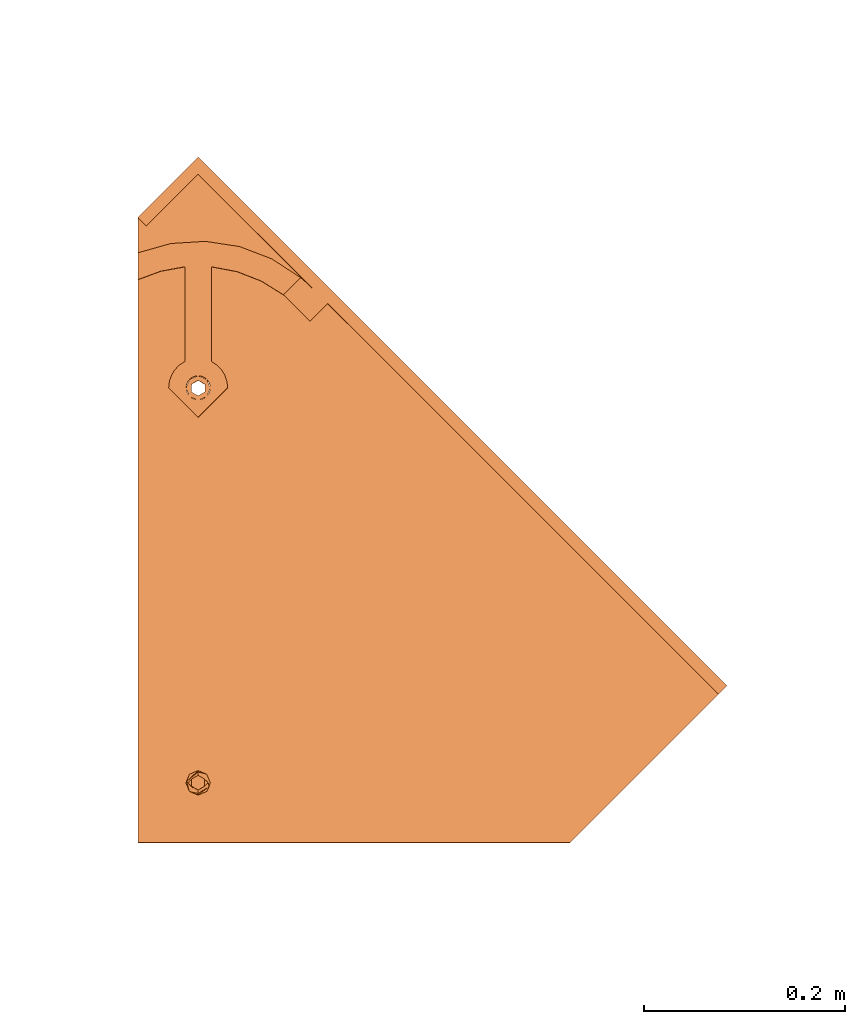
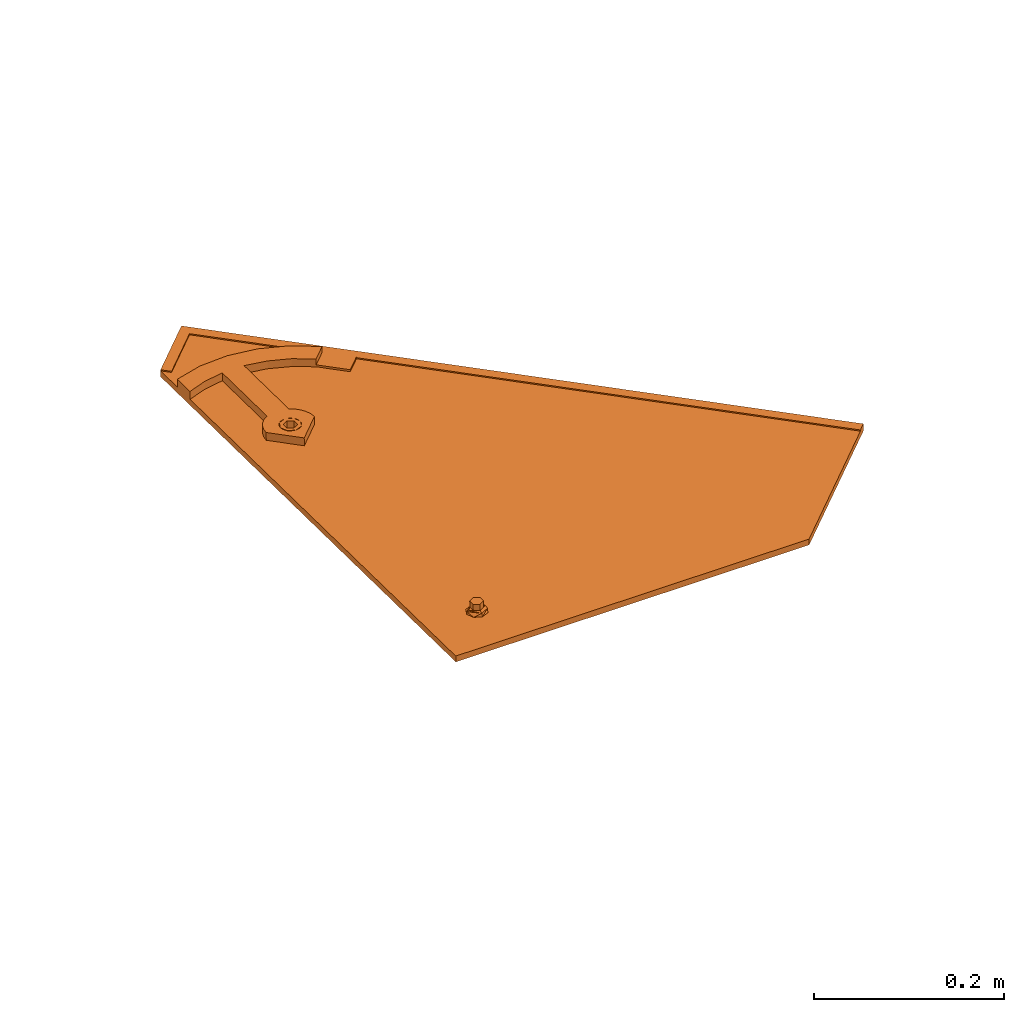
# One storey, part 150 of 151: 1 proxy.
"""IFC2X3 building model written with IfcOpenShell, lengths in millimetres."""

import ifcopenshell
import ifcopenshell.guid

model = None  # the IFC model being written
_history = None  # IfcOwnerHistory: only IFC2X3 demands one
_inside = {}  # id of a spatial element -> (the spatial element, [elements in it])
_under = {}  # id of a project, library or spatial element -> (it, [spatial elements below it])
_declared = {}  # id of a project -> (the project, [libraries it declares])
_typed = {}  # id of a type object -> (the type object, [elements of that type])
_made_of = {}  # id of a material, layer set ... -> (it, [elements and type objects made of it])


def new_model(schema):
    """Start an empty IFC model of exactly this schema.

    Asked for "IFC4X3", IfcOpenShell would pick the latest addendum, in which some entities
    have other attributes; the version numbers below select the first issue.
    IFC2X3 requires an IfcOwnerHistory on every rooted entity: one is made here for all.
    """
    global model, _history
    if schema == "IFC4X3":
        model = ifcopenshell.file(schema_version=(4, 3, 0, 0))
    else:
        model = ifcopenshell.file(schema=schema)
    _inside.clear()
    _under.clear()
    _declared.clear()
    _typed.clear()
    _made_of.clear()
    _history = None
    if model.schema == "IFC2X3":
        org = make("IfcOrganization", Name="unknown")
        user = make(
            "IfcPersonAndOrganization",
            ThePerson=make("IfcPerson", FamilyName="unknown"),
            TheOrganization=org,
        )
        app = make(
            "IfcApplication",
            ApplicationDeveloper=org,
            Version="unknown",
            ApplicationFullName="unknown",
            ApplicationIdentifier="unknown",
        )
        _history = make(
            "IfcOwnerHistory",
            OwningUser=user,
            OwningApplication=app,
            ChangeAction="ADDED",
            CreationDate=0,
        )
    return model


def make(cls, **values):
    """One entity of the class cls with the attributes given. An attribute that is None is left unset."""
    return model.create_entity(
        cls, **{name: value for name, value in values.items() if value is not None}
    )


def entity(cls, *values):
    """Any entity or typed value of the class cls, its attributes in the order of the schema. None: left unset."""
    e = model.create_entity(cls)
    for i, value in enumerate(values):
        if value is not None:
            e[i] = value
    return e


def rooted(cls, **values):
    """An entity with a GlobalId (a new one), such as an element, a storey or a relation."""
    return make(cls, GlobalId=ifcopenshell.guid.new(), OwnerHistory=_history, **values)


def si_unit(unit_type, name, prefix=None):
    """IfcSIUnit, for example si_unit("LENGTHUNIT", "METRE", prefix="MILLI")."""
    return make("IfcSIUnit", UnitType=unit_type, Prefix=prefix, Name=name)


def converted_unit(unit_type, name, factor, base, dimensions=None, offset=None):
    """IfcConversionBasedUnit, such as the inch: factor (a typed value) times the base unit."""
    return make(
        "IfcConversionBasedUnit"
        if offset is None
        else "IfcConversionBasedUnitWithOffset",
        ConversionOffset=offset,
        Dimensions=None
        if dimensions is None
        else entity("IfcDimensionalExponents", *dimensions),
        UnitType=unit_type,
        Name=name,
        ConversionFactor=make(
            "IfcMeasureWithUnit", ValueComponent=factor, UnitComponent=base
        ),
    )


def derived_unit(unit_type, elements):
    """IfcDerivedUnit: a product of units, each with its exponent."""
    return make(
        "IfcDerivedUnit",
        Elements=[
            make("IfcDerivedUnitElement", Unit=unit, Exponent=power)
            for unit, power in elements
        ],
        UnitType=unit_type,
    )


def assignment(units):
    """IfcUnitAssignment: the units of a project."""
    return None if units is None else make("IfcUnitAssignment", Units=units)


def point(xyz):
    """IfcCartesianPoint."""
    return None if xyz is None else make("IfcCartesianPoint", Coordinates=xyz)


def direction(xyz):
    """IfcDirection."""
    return None if xyz is None else make("IfcDirection", DirectionRatios=xyz)


def frame(location, z_axis=None, x_axis=None):
    """IfcAxis2Placement3D, a coordinate frame: its origin and axes. An axis left out is left unset."""
    return make(
        "IfcAxis2Placement3D",
        Location=point(location),
        Axis=direction(z_axis),
        RefDirection=direction(x_axis),
    )


def origin():
    """The frame at (0, 0, 0) with its axes left unset."""
    return frame((0.0, 0.0, 0.0))


def place(relative_to, where):
    """IfcLocalPlacement: puts the frame where relative to a parent placement (None: the world)."""
    return make(
        "IfcLocalPlacement", PlacementRelTo=relative_to, RelativePlacement=where
    )


def context(
    kind, dimensions, precision=None, world=None, true_north=None, identifier=None
):
    """IfcGeometricRepresentationContext, for example the 3D "Model" context."""
    return make(
        "IfcGeometricRepresentationContext",
        ContextIdentifier=identifier,
        ContextType=kind,
        CoordinateSpaceDimension=dimensions,
        Precision=precision,
        WorldCoordinateSystem=world,
        TrueNorth=true_north,
    )


def subcontext(parent, identifier, kind, view, scale=None):
    """IfcGeometricRepresentationSubContext, for example "Body" below "Model"."""
    return make(
        "IfcGeometricRepresentationSubContext",
        ContextIdentifier=identifier,
        ContextType=kind,
        ParentContext=parent,
        TargetScale=scale,
        TargetView=view,
    )


def project(units=None, contexts=None):
    """IfcProject with its units and contexts."""
    return rooted(
        "IfcProject",
        Name="project",
        RepresentationContexts=contexts,
        UnitsInContext=assignment(units),
    )


def spatial(cls, under=None, at=None, **own):
    """A site, building, storey or space (cls), placed at a placement, below another one or the project."""
    s = rooted(cls, ObjectPlacement=at, **own)
    if under is not None:
        _under.setdefault(under.id(), (under, []))[1].append(s)
    return s


def faces_of(points, faces, orient=None, outer=None):
    """IfcFace entities. A face is a list of loops; a loop is a list of indices into points, from 0.

    orient and outer hold one flag for each loop. By default every Orientation is true, the
    first loop of a face is its IfcFaceOuterBound and the others are IfcFaceBound.
    """
    made = []
    for i, loops in enumerate(faces):
        bounds = []
        for j, loop in enumerate(loops):
            is_outer = j == 0 if outer is None else outer[i][j]
            bounds.append(
                make(
                    "IfcFaceOuterBound" if is_outer else "IfcFaceBound",
                    Bound=make("IfcPolyLoop", Polygon=[points[k] for k in loop]),
                    Orientation=True if orient is None else orient[i][j],
                )
            )
        made.append(make("IfcFace", Bounds=bounds))
    return made


def faceted_brep(points, faces, orient=None, outer=None, voids=None):
    """IfcFacetedBrep: a solid bounded by flat faces; with voids (closed shells), ...WithVoids."""
    shared = [point(p) for p in points]
    hull = make("IfcClosedShell", CfsFaces=faces_of(shared, faces, orient, outer))
    if voids is None:
        return make("IfcFacetedBrep", Outer=hull)
    return make(
        "IfcFacetedBrepWithVoids",
        Outer=hull,
        Voids=[
            make(cls, CfsFaces=faces_of(shared, fs, o, b)) for cls, fs, o, b in voids
        ],
    )


def shape(context_of_items, identifier, shape_type, items):
    """IfcShapeRepresentation: the items that make up one representation, for example the "Body"."""
    return make(
        "IfcShapeRepresentation",
        ContextOfItems=context_of_items,
        RepresentationIdentifier=identifier,
        RepresentationType=shape_type,
        Items=items,
    )


def source(mapping_origin, context_of_items, identifier, shape_type, items):
    """IfcRepresentationMap: a shape defined once, which mapped items show again and again."""
    return make(
        "IfcRepresentationMap",
        MappingOrigin=mapping_origin,
        MappedRepresentation=shape(context_of_items, identifier, shape_type, items),
    )


def transform(
    local_origin,
    x_axis=None,
    y_axis=None,
    z_axis=None,
    scale=None,
    scale2=None,
    scale3=None,
    uniform=True,
):
    """IfcCartesianTransformationOperator3D, or its non-uniform kind. x_axis, y_axis, z_axis: its Axis1, 2, 3."""
    if uniform:
        return make(
            "IfcCartesianTransformationOperator3D",
            Axis1=direction(x_axis),
            Axis2=direction(y_axis),
            LocalOrigin=point(local_origin),
            Scale=scale,
            Axis3=direction(z_axis),
        )
    return make(
        "IfcCartesianTransformationOperator3DnonUniform",
        Axis1=direction(x_axis),
        Axis2=direction(y_axis),
        LocalOrigin=point(local_origin),
        Scale=scale,
        Axis3=direction(z_axis),
        Scale2=scale2,
        Scale3=scale3,
    )


def mapped(mapping_source, mapping_target):
    """IfcMappedItem: shows the shape of a source again, moved by a transform."""
    return make(
        "IfcMappedItem", MappingSource=mapping_source, MappingTarget=mapping_target
    )


def material(Name=None, Category=None):
    """IfcMaterial."""
    return make("IfcMaterial", Name=Name, Category=Category)


def material_list(materials):
    """IfcMaterialList."""
    return make("IfcMaterialList", Materials=materials)


def made_of(thing, what):
    """Note that an element or type object is made of a material, layer set ...; save() writes the relation."""
    if what is not None:
        _made_of.setdefault(what.id(), (what, []))[1].append(thing)
    return thing


def type_object(cls, material=None, **own):
    """A type object (cls), such as IfcWallType, which elements share."""
    return made_of(rooted(cls, **own), material)


def type_shapes(of_type, sources):
    """Give a type object the sources (RepresentationMaps) that its elements show as mapped items."""
    of_type.RepresentationMaps = sources


def element(
    cls,
    number,
    at=None,
    inside=None,
    cuts=None,
    type_object=None,
    material=None,
    context=None,
    identifier="Body",
    shape_type=None,
    held_by="IfcProductDefinitionShape",
    body=None,
    shapes=None,
    **own,
):
    """One element of the class cls, such as IfcWall. Its Tag is "e" and its number.

    at: its placement. inside: the storey or other place that contains it. cuts: it is an
    opening in that element (IfcRelVoidsElement). A single representation is given by context,
    identifier, shape_type and body (its items); several are given by shapes. held_by: the class
    of the entity that holds the representations. save() writes the other relations.
    """
    e = rooted(cls, Tag="e%d" % number, ObjectPlacement=at, **own)
    if body is not None:
        shapes = [shape(context, identifier, shape_type, body)]
    if shapes is not None:
        e.Representation = make(held_by, Representations=shapes)
    if inside is not None:
        _inside.setdefault(inside.id(), (inside, []))[1].append(e)
    if cuts is not None:
        rooted(
            "IfcRelVoidsElement", RelatingBuildingElement=cuts, RelatedOpeningElement=e
        )
    if type_object is not None:
        _typed.setdefault(type_object.id(), (type_object, []))[1].append(e)
    return made_of(e, material)


def aggregate(whole, parts):
    """IfcRelAggregates: a whole, such as a stair, and the parts it consists of."""
    return rooted("IfcRelAggregates", RelatingObject=whole, RelatedObjects=parts)


def save(model, path):
    """Write the relations noted so far, then the file.

    IfcRelAggregates (storeys below a building ...), IfcRelContainedInSpatialStructure (elements
    in a storey), IfcRelDefinesByType, IfcRelAssociatesMaterial and IfcRelDeclares: one each for
    every whole, place, type object, material and project.
    """
    for whole, parts in _under.values():
        aggregate(whole, parts)
    for where, things in _inside.values():
        rooted(
            "IfcRelContainedInSpatialStructure",
            RelatedElements=things,
            RelatingStructure=where,
        )
    for kind, things in _typed.values():
        rooted("IfcRelDefinesByType", RelatedObjects=things, RelatingType=kind)
    for what, things in _made_of.values():
        rooted("IfcRelAssociatesMaterial", RelatedObjects=things, RelatingMaterial=what)
    for by, libraries in _declared.values():
        rooted("IfcRelDeclares", RelatingContext=by, RelatedDefinitions=libraries)
    model.write(path)


model = new_model("IFC2X3")

# Units and contexts
model_context = context("Model", 3, precision=0.01, world=origin(), true_north=direction((6.12303176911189e-17, 1.0)))
body_context = subcontext(model_context, "Body", "Model", "MODEL_VIEW")
ifc_project = project(units=[si_unit("LENGTHUNIT", "METRE", prefix="MILLI"), si_unit("AREAUNIT", "SQUARE_METRE"), si_unit("VOLUMEUNIT", "CUBIC_METRE"), converted_unit("PLANEANGLEUNIT", "DEGREE", entity("IfcRatioMeasure", 0.0174532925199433), si_unit("PLANEANGLEUNIT", "RADIAN"), dimensions=[0, 0, 0, 0, 0, 0, 0]), si_unit("MASSUNIT", "GRAM", prefix="KILO"), derived_unit("MASSDENSITYUNIT", [(si_unit("MASSUNIT", "GRAM", prefix="KILO"), 1), (si_unit("LENGTHUNIT", "METRE"), -3)]), si_unit("TIMEUNIT", "SECOND"), si_unit("FREQUENCYUNIT", "HERTZ"), si_unit("THERMODYNAMICTEMPERATUREUNIT", "DEGREE_CELSIUS"), derived_unit("THERMALTRANSMITTANCEUNIT", [(si_unit("MASSUNIT", "GRAM", prefix="KILO"), 1), (si_unit("THERMODYNAMICTEMPERATUREUNIT", "KELVIN"), -1), (si_unit("TIMEUNIT", "SECOND"), -3)]), derived_unit("VOLUMETRICFLOWRATEUNIT", [(si_unit("LENGTHUNIT", "METRE"), 3), (si_unit("TIMEUNIT", "SECOND"), -1)]), si_unit("ELECTRICCURRENTUNIT", "AMPERE"), si_unit("ELECTRICVOLTAGEUNIT", "VOLT"), si_unit("POWERUNIT", "WATT"), si_unit("FORCEUNIT", "NEWTON", prefix="KILO"), si_unit("ILLUMINANCEUNIT", "LUX"), si_unit("LUMINOUSFLUXUNIT", "LUMEN"), si_unit("LUMINOUSINTENSITYUNIT", "CANDELA"), derived_unit("USERDEFINED", [(si_unit("MASSUNIT", "GRAM", prefix="KILO"), -1), (si_unit("LENGTHUNIT", "METRE"), -2), (si_unit("TIMEUNIT", "SECOND"), 3), (si_unit("LUMINOUSFLUXUNIT", "LUMEN"), 1)]), derived_unit("LINEARVELOCITYUNIT", [(si_unit("LENGTHUNIT", "METRE"), 1), (si_unit("TIMEUNIT", "SECOND"), -1)]), si_unit("PRESSUREUNIT", "PASCAL"), derived_unit("USERDEFINED", [(si_unit("LENGTHUNIT", "METRE"), -2), (si_unit("MASSUNIT", "GRAM", prefix="KILO"), 1), (si_unit("TIMEUNIT", "SECOND"), -2)])], contexts=[model_context])

# Site, building, storey
site_placement = place(None, origin())
site = spatial("IfcSite", under=ifc_project, at=site_placement, Name="Default", CompositionType="ELEMENT")
building_placement = place(site_placement, origin())
building = spatial("IfcBuilding", under=site, at=building_placement, CompositionType="ELEMENT")
storey_placement = place(building_placement, origin())
storey = spatial("IfcBuildingStorey", under=building, at=storey_placement, Name="Level 1", CompositionType="ELEMENT", Elevation=0.0)

# Proxy
ifc_material_1 = material(Name="Rubber - Sunstyle - Black")
ifc_material_2 = material(Name="Glass - Sunstyle - Tainted Black")
ifc_material_list_1 = material_list([ifc_material_1, ifc_material_2])
ifc_material_list_2 = material_list([ifc_material_1, ifc_material_2])
building_element_proxy_type = type_object("IfcBuildingElementProxyType", Name="Corner Bottom Big Left - Black", PredefinedType="NOTDEFINED", material=ifc_material_list_2)
shared_shape = source(origin(), body_context, "Body", "Brep", [
    faceted_brep([(-0.0751428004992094, -1.99178997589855, -4.01619789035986), (-5.84934563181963, -5.3250601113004, -3.96037390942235), (-5.8493456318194, -4.95675101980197, 18.0314954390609), (-0.0751428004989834, -1.62348088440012, 17.9756714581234), (-5.84934563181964, -11.9916003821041, -3.84872594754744), (-5.84934563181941, -11.6232912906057, 18.1431434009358), (-0.0751428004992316, -15.324870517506, -3.79290196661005), (-0.0751428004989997, -14.9565614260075, 18.1989673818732), (5.6990600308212, -11.9916003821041, -3.84872594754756), (5.69906003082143, -11.6232912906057, 18.1431434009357), (5.69906003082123, -5.32506011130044, -3.96037390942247), (5.69906003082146, -4.956751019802, 18.0314954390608), (-8.67884696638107, -16.8925189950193, 18.2313898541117), (-0.0751428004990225, -20.4557902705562, 18.2910657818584), (-12.2426179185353, -8.29002115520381, 18.0873194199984), (-8.67884696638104, 0.312476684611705, 17.9432489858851), (-0.0751428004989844, 3.87574796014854, 17.8835730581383), (8.52856136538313, 0.312476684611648, 17.9432489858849), (12.0923323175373, -8.29002115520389, 18.0873194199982), (8.52856136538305, -16.8925189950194, 18.2313898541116), (-11.5053656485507, -6.91642549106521, 20.4858706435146), (-9.84565629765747, -8.2191521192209, 22.3189355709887), (-0.0751428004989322, -0.90593101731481, 22.9603444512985), (-0.0751428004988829, 0.3345666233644, 22.3799978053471), (-0.0751428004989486, 2.49211747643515, 21.3706227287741), (-6.39838849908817, -4.55614675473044, 23.0214764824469), (-6.39838849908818, -11.8565782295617, 23.1437405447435), (-0.0751428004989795, -18.9561696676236, 21.7298281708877), (-0.0751428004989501, -15.5067939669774, 23.2048725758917), (10.910032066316, -12.0070776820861, 20.3827540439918), (10.0487075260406, -8.22319104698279, 22.077768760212), (6.24810289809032, -4.55614675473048, 23.0214764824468), (6.24810289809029, -11.8565782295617, 23.1437405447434), (-6.39838849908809, -11.7225497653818, 31.1466287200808), (-0.0751428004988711, -15.3727655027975, 31.207760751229), (-0.0751428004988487, -8.07233402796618, 31.0854966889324), (-6.39838849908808, -4.42211829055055, 31.0243646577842), (6.24810289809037, -11.7225497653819, 31.1466287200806), (6.24810289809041, -4.42211829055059, 31.024364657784), (-0.07514280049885, -0.771902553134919, 30.9632326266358), (-0.0751428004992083, -8.65833024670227, -3.90454992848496)], [[[0, 1, 2, 3]], [[1, 4, 5, 2]], [[4, 6, 7, 5]], [[6, 8, 9, 7]], [[8, 10, 11, 9]], [[10, 0, 3, 11]], [[12, 7, 13]], [[7, 12, 5]], [[14, 5, 12]], [[5, 14, 2]], [[15, 2, 14]], [[3, 2, 15]], [[15, 16, 3]], [[16, 17, 3]], [[11, 3, 17]], [[11, 17, 18]], [[9, 11, 18]], [[18, 19, 9]], [[7, 9, 19]], [[19, 13, 7]], [[15, 20, 16]], [[21, 22, 23, 24]], [[22, 21, 25]], [[20, 14, 12]], [[15, 14, 20]], [[25, 21, 26]], [[20, 24, 16]], [[12, 13, 27]], [[12, 27, 20]], [[21, 28, 26]], [[21, 27, 28]], [[20, 21, 24]], [[20, 27, 21]], [[19, 29, 13]], [[30, 23, 31]], [[30, 28, 27]], [[24, 23, 30]], [[29, 27, 13]], [[19, 18, 29]], [[29, 30, 27]], [[29, 17, 24]], [[24, 17, 16]], [[31, 32, 30]], [[23, 22, 31]], [[28, 30, 32]], [[29, 24, 30]], [[29, 18, 17]], [[33, 34, 35]], [[35, 36, 33]], [[34, 37, 35]], [[38, 35, 37]], [[35, 38, 39]], [[35, 39, 36]], [[40, 6, 4]], [[4, 1, 40]], [[1, 0, 40]], [[40, 8, 6]], [[0, 10, 40]], [[8, 40, 10]], [[22, 25, 36, 39]], [[25, 26, 33, 36]], [[26, 28, 34, 33]], [[28, 32, 37, 34]], [[32, 31, 38, 37]], [[31, 22, 39, 38]]]),
    faceted_brep([(0.0, 372.830900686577, 20.3195200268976), (0.0, 377.330269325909, 20.2441667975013), (-8.60370416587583, 376.394171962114, 20.2598440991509), (8.60370416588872, 376.394171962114, 20.2598440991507), (6.64022859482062, 381.163469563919, 20.1799702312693), (12.1674751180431, 384.996669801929, 20.1157736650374), (6.64022859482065, 388.829870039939, 20.0515770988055), (8.6037041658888, 393.599167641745, 19.9717032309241), (0.0, 392.663070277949, 19.9873805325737), (0.0, 397.162438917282, 19.9120273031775), (-8.60370416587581, 393.599167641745, 19.9717032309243), (-6.64022859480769, 388.829870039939, 20.0515770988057), (-12.1674751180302, 384.996669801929, 20.1157736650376), (-6.6402285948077, 381.163469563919, 20.1799702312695), (-6.6402282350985, 388.561947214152, 4.05382046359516), (0.0, 392.395147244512, 3.98962390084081), (-6.64022823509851, 380.89554715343, 4.18221358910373), (0.0, 377.062347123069, 4.24641015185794), (6.64022823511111, 380.89554715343, 4.18221358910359), (6.64022823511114, 388.561947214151, 4.05382046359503), (-8.603704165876, 376.126249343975, 4.26208746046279), (0.0, 372.562978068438, 4.32176338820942), (-12.1674751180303, 384.728747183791, 4.1180170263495), (-8.60370416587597, 393.331245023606, 3.97394659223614), (0.0, 396.894516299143, 3.91427066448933), (8.60370416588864, 393.331245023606, 3.97394659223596), (12.1674751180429, 384.728747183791, 4.11801702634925), (8.60370416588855, 376.126249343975, 4.26208746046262)], [[[0, 1, 2]], [[1, 0, 3]], [[3, 4, 1]], [[4, 3, 5]], [[6, 4, 5]], [[5, 7, 6]], [[7, 8, 6]], [[8, 7, 9]], [[8, 9, 10]], [[10, 11, 8]], [[12, 11, 10]], [[2, 13, 12]], [[12, 13, 11]], [[13, 2, 1]], [[8, 11, 14, 15]], [[11, 13, 16, 14]], [[13, 1, 17, 16]], [[1, 4, 18, 17]], [[4, 6, 19, 18]], [[6, 8, 15, 19]], [[20, 17, 21]], [[17, 20, 16]], [[22, 16, 20]], [[14, 16, 22]], [[23, 14, 22]], [[15, 14, 23]], [[23, 24, 15]], [[24, 25, 15]], [[19, 15, 25]], [[19, 25, 26]], [[26, 18, 19]], [[26, 27, 18]], [[17, 18, 27]], [[27, 21, 17]], [[24, 23, 10, 9]], [[10, 23, 22, 12]], [[20, 21, 0, 2]], [[20, 2, 12, 22]], [[21, 27, 3, 0]], [[3, 27, 26, 5]], [[25, 24, 9, 7]], [[25, 7, 5, 26]]]),
    faceted_brep([(518.247351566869, 79.9143812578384, 14.9652572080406), (526.73203801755, 88.3990677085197, 14.8231598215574), (526.73203801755, 88.4241854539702, 16.3229495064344), (518.247351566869, 79.9394990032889, 16.4650468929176), (0.00032251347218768, 598.016093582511, 6.28834266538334), (-51.6190674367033, 546.411177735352, 7.15259660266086), (-60.1037538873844, 554.895864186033, 7.01049921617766), (0.000322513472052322, 614.983087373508, 6.00418773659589), (0.000322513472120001, 615.008205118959, 7.50397742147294), (-60.1037538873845, 554.920981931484, 8.51028890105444), (-51.6190674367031, 546.436295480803, 8.65238628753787), (0.000322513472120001, 598.041211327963, 7.78813235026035)], [[[0, 1, 2, 3]], [[1, 0, 4, 5, 6, 7]], [[2, 1, 7, 8]], [[3, 2, 8, 9, 10, 11]], [[0, 3, 11, 4]], [[5, 10, 9, 6]], [[8, 7, 6, 9]], [[4, 11, 10, 5]]]),
    faceted_brep([(3.11702008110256, 396.343568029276, 9.66585566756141), (0.00032251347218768, 614.983087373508, 6.00418773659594), (-60.1037538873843, 554.895864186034, 7.01049921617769), (6.01119153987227, 395.144931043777, 9.68592985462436), (0.0111915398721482, 396.752400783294, 9.65900873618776), (8.49647291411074, 393.23817495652, 9.71786327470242), (10.4034963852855, 390.753242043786, 9.75947971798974), (11.6023014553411, 387.859476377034, 9.80794309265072), (526.73203801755, 88.3990677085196, 14.8231598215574), (12.0111915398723, 384.754083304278, 9.85995069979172), (11.602301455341, 381.648690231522, 9.91195830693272), (10.4034963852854, 378.75492456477, 9.9604216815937), (370.355661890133, -67.9334604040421, 17.4413406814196), (8.49647291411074, 376.269991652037, 10.002038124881), (5.64986306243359, -2.59158370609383, 16.347026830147), (6.01119153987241, 374.36323556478, 10.0339715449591), (3.99300881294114, -1.32041298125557, 16.3257378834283), (3.11702008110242, 373.164598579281, 10.054045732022), (2.06356117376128, -0.521321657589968, 16.312355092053), (0.0111915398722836, 372.755765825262, 10.0608926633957), (-0.00699118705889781, -0.248766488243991, 16.3077904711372), (-2.07754354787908, -0.5213216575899, 16.312355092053), (-3.09463700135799, 373.164598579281, 10.054045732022), (-4.0069911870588, -1.3204129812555, 16.3257378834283), (-5.98880846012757, 374.36323556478, 10.0339715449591), (-5.66384543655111, -2.59158370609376, 16.347026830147), (-8.47408983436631, 376.269991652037, 10.002038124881), (-6.93519441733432, -4.24820564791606, 16.3747711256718), (-10.3811133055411, 378.75492456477, 9.9604216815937), (-60.1037538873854, -67.9334604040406, 17.4413406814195), (-11.5799183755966, 381.648690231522, 9.91195830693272), (-11.9888084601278, 384.754083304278, 9.85995069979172), (-11.5799183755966, 387.859476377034, 9.80794309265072), (-10.3811133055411, 390.753242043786, 9.75947971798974), (-8.47408983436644, 393.23817495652, 9.71786327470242), (-5.98880846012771, 395.144931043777, 9.68592985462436), (-3.09463700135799, 396.343568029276, 9.66585566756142), (-7.73439779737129, -6.1773827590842, 16.4070800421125), (-8.00699118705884, -8.24764480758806, 16.4417517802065), (-7.73439779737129, -10.317906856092, 16.4764235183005), (-6.93519441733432, -12.2470839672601, 16.5087324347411), (-5.66384543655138, -13.9037059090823, 16.536476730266), (-4.0069911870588, -15.1748766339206, 16.5577656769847), (-2.07754354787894, -15.9739679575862, 16.57114846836), (-0.00699118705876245, -16.2465231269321, 16.5757130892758), (2.06356117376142, -15.9739679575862, 16.57114846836), (3.99300881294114, -15.1748766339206, 16.5577656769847), (5.64986306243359, -13.9037059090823, 16.536476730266), (6.92121204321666, -4.24820564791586, 16.3747711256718), (7.72041542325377, -6.17738275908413, 16.4070800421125), (7.99300881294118, -8.24764480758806, 16.4417517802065), (7.72041542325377, -10.317906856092, 16.4764235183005), (6.9212120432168, -12.2470839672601, 16.5087324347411), (-7.73439779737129, -6.30297148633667, 8.90813161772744), (-8.00699118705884, -8.37323353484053, 8.94280335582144), (-60.1037538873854, -68.0590491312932, 9.94239225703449), (-6.93519441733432, -4.37379437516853, 8.87582270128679), (-7.73439779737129, -10.4434955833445, 8.97747509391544), (-6.93519441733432, -12.3726726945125, 9.00978401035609), (-5.66384543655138, -14.0292946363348, 9.03752830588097), (-4.0069911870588, -15.300465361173, 9.05881725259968), (-2.07754354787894, -16.0995566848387, 9.07220004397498), (-0.00699118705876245, -16.3721118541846, 9.07676466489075), (2.06356117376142, -16.0995566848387, 9.07220004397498), (3.99300881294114, -15.3004653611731, 9.05881725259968), (370.355661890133, -68.0590491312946, 9.94239225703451), (5.64986306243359, -14.0292946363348, 9.03752830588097), (6.9212120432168, -12.3726726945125, 9.00978401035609), (7.72041542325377, -10.4434955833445, 8.97747509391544), (7.99300881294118, -8.37323353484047, 8.94280335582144), (7.72041542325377, -6.3029714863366, 8.90813161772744), (6.92121204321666, -4.37379437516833, 8.87582270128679), (5.64986306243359, -2.7171724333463, 8.84807840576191), (8.49647291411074, 376.144402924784, 2.50308970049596), (6.01119153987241, 374.237646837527, 2.53502312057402), (3.99300881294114, -1.44600170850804, 8.8267894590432), (3.11702008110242, 373.039009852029, 2.55509730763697), (2.06356117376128, -0.646910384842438, 8.81340666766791), (0.0111915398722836, 372.63017709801, 2.56194423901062), (-0.00699118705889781, -0.374355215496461, 8.80884204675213), (-2.07754354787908, -0.646910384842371, 8.81340666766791), (-3.09463700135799, 373.039009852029, 2.55509730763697), (-4.0069911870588, -1.44600170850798, 8.8267894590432), (-5.98880846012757, 374.237646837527, 2.53502312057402), (-5.66384543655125, -2.7171724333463, 8.84807840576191), (-8.47408983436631, 376.144402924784, 2.50308970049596), (10.4034963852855, 378.629335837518, 2.46147325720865), (526.73203801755, 88.2734789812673, 7.32421139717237), (11.602301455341, 381.52310150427, 2.41300988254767), (12.0111915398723, 384.628494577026, 2.36100227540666), (11.6023014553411, 387.733887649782, 2.30899466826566), (0.000322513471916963, 614.857498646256, -1.49476068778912), (10.4034963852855, 390.627653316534, 2.26053129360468), (8.49647291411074, 393.112586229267, 2.21891485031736), (6.01119153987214, 395.019342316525, 2.18698143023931), (3.11702008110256, 396.217979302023, 2.16690724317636), (-60.1037538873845, 554.770275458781, -0.488449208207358), (0.0111915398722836, 396.626812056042, 2.16006031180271), (-3.09463700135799, 396.217979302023, 2.16690724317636), (-5.98880846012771, 395.019342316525, 2.18698143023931), (-8.47408983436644, 393.112586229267, 2.21891485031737), (-10.3811133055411, 390.627653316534, 2.26053129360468), (-11.5799183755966, 387.733887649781, 2.30899466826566), (-11.9888084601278, 384.628494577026, 2.36100227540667), (-11.5799183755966, 381.52310150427, 2.41300988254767), (-10.3811133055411, 378.629335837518, 2.46147325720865)], [[[0, 1, 2]], [[0, 3, 1]], [[4, 0, 2]], [[1, 3, 5]], [[6, 1, 5]], [[7, 1, 6]], [[7, 8, 1]], [[9, 8, 7]], [[8, 9, 10]], [[8, 10, 11]], [[8, 11, 12]], [[12, 11, 13]], [[12, 13, 14]], [[14, 13, 15]], [[16, 14, 15]], [[15, 17, 16]], [[16, 17, 18]], [[18, 17, 19]], [[18, 19, 20]], [[21, 20, 19]], [[21, 19, 22]], [[23, 21, 22]], [[23, 22, 24]], [[24, 25, 23]], [[25, 24, 26]], [[25, 26, 27]], [[28, 27, 26]], [[28, 29, 27]], [[28, 30, 29]], [[31, 2, 30]], [[2, 29, 30]], [[31, 32, 2]], [[33, 2, 32]], [[33, 34, 2]], [[34, 35, 2]], [[36, 2, 35]], [[4, 2, 36]], [[37, 27, 29]], [[38, 37, 29]], [[39, 38, 29]], [[29, 40, 39]], [[41, 40, 29]], [[42, 41, 29]], [[43, 42, 29]], [[29, 44, 43]], [[44, 29, 45]], [[45, 29, 46]], [[12, 46, 29]], [[47, 46, 12]], [[14, 48, 12]], [[48, 49, 12]], [[50, 12, 49]], [[12, 50, 51]], [[51, 52, 12]], [[12, 52, 47]], [[53, 54, 55]], [[56, 53, 55]], [[57, 55, 54]], [[55, 57, 58]], [[59, 55, 58]], [[59, 60, 55]], [[60, 61, 55]], [[62, 55, 61]], [[63, 55, 62]], [[64, 55, 63]], [[64, 65, 55]], [[66, 65, 64]], [[66, 67, 65]], [[68, 65, 67]], [[65, 68, 69]], [[69, 70, 65]], [[70, 71, 65]], [[71, 72, 65]], [[65, 72, 73]], [[73, 72, 74]], [[72, 75, 74]], [[74, 75, 76]], [[75, 77, 76]], [[76, 77, 78]], [[77, 79, 78]], [[80, 78, 79]], [[78, 80, 81]], [[80, 82, 81]], [[81, 82, 83]], [[82, 84, 83]], [[84, 56, 85]], [[85, 83, 84]], [[86, 65, 73]], [[87, 65, 86]], [[86, 88, 87]], [[89, 87, 88]], [[87, 89, 90]], [[87, 90, 91]], [[92, 91, 90]], [[93, 91, 92]], [[91, 93, 94]], [[94, 95, 91]], [[95, 96, 91]], [[97, 96, 95]], [[97, 98, 96]], [[98, 99, 96]], [[96, 99, 100]], [[100, 101, 96]], [[101, 102, 96]], [[102, 103, 96]], [[103, 104, 96]], [[104, 105, 55]], [[104, 55, 96]], [[56, 55, 105]], [[105, 85, 56]], [[2, 1, 91, 96]], [[8, 12, 65, 87]], [[1, 8, 87, 91]], [[31, 103, 102, 32]], [[32, 102, 101, 33]], [[35, 34, 100, 99]], [[100, 34, 33, 101]], [[36, 35, 99, 98]], [[36, 98, 97, 4]], [[4, 97, 95, 0]], [[0, 95, 94, 3]], [[6, 5, 93, 92]], [[93, 5, 3, 94]], [[7, 6, 92, 90]], [[7, 90, 89, 9]], [[9, 89, 88, 10]], [[10, 88, 86, 11]], [[15, 13, 73, 74]], [[73, 13, 11, 86]], [[17, 15, 74, 76]], [[17, 76, 78, 19]], [[19, 78, 81, 22]], [[22, 81, 83, 24]], [[28, 26, 85, 105]], [[85, 26, 24, 83]], [[30, 28, 105, 104]], [[30, 104, 103, 31]], [[29, 2, 96, 55]], [[12, 29, 55, 65]], [[38, 54, 53, 37]], [[37, 53, 56, 27]], [[23, 25, 84, 82]], [[84, 25, 27, 56]], [[21, 23, 82, 80]], [[21, 80, 79, 20]], [[20, 79, 77, 18]], [[18, 77, 75, 16]], [[48, 14, 72, 71]], [[72, 14, 16, 75]], [[49, 48, 71, 70]], [[49, 70, 69, 50]], [[50, 69, 68, 51]], [[51, 68, 67, 52]], [[46, 47, 66, 64]], [[66, 47, 52, 67]], [[45, 46, 64, 63]], [[45, 63, 62, 44]], [[44, 62, 61, 43]], [[43, 61, 60, 42]], [[40, 41, 59, 58]], [[59, 41, 42, 60]], [[39, 40, 58, 57]], [[39, 57, 54, 38]]]),
    faceted_brep([(-60.1037538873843, 519.689310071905, 17.6015236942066), (-60.1037538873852, 492.963077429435, 18.0491215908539), (-37.2599857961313, 501.419601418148, 17.907495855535), (-27.0541674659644, 529.001842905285, 17.4455619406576), (-13.2999999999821, 505.810987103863, 17.833951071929), (7.21723712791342, 531.121352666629, 17.4100654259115), (13.3000000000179, 505.810987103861, 17.833951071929), (13.3000000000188, 411.460563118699, 19.4140859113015), (-13.2999999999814, 411.460563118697, 19.4140859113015), (0.0, 397.254760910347, 19.6519977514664), (-3.10582854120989, 396.845928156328, 19.6588446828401), (-6.0, 395.64729117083, 19.678918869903), (-18.7041061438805, 407.922514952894, 19.4733394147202), (-8.48528137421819, 393.740535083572, 19.7108522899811), (-23.2046504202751, 403.289509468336, 19.5509307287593), (-10.3923048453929, 391.255602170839, 19.7524687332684), (-26.584219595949, 397.785358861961, 19.6431115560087), (-11.5911099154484, 388.361836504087, 19.8009321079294), (-28.67955273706, 391.675958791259, 19.7454288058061), (-12.0, 385.256443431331, 19.8529397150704), (-29.3894280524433, 385.256443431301, 19.8529397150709), (-11.5911099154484, 382.151050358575, 19.9049473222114), (-10.3923048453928, 379.257284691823, 19.9534106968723), (-8.48528137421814, 376.772351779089, 19.9950271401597), (0.0, 355.871136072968, 20.3450704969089), (-6.0, 374.865595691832, 20.0269605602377), (-3.10582854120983, 373.666958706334, 20.0470347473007), (0.0, 373.258125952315, 20.0538816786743), (3.10582854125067, 373.666958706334, 20.0470347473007), (6.0, 374.865595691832, 20.0269605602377), (8.48528137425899, 376.772351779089, 19.9950271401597), (29.3894280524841, 385.256443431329, 19.8529397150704), (10.3923048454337, 379.257284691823, 19.9534106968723), (11.5911099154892, 382.151050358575, 19.9049473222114), (12.0, 385.256443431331, 19.8529397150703), (28.6795527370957, 391.675958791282, 19.7454288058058), (11.5911099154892, 388.361836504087, 19.8009321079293), (26.5842195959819, 397.785358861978, 19.6431115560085), (10.3923048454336, 391.255602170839, 19.7524687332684), (23.2046504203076, 403.289509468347, 19.5509307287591), (8.48528137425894, 393.740535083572, 19.7108522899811), (18.7041061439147, 407.922514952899, 19.4733394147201), (6.0, 395.64729117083, 19.678918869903), (3.1058285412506, 396.845928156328, 19.6588446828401), (41.1626974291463, 525.952118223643, 17.4966372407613), (38.7697427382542, 500.996106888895, 17.9145883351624), (73.2491712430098, 513.727592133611, 17.7013676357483), (62.9243331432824, 491.592473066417, 18.0720758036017), (84.9443960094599, 477.919076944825, 18.3010711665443), (102.027571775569, 494.999857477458, 18.0150105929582), (-10.3923048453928, 379.089833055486, 9.95481279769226), (-29.3894280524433, 385.088991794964, 9.85434181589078), (-11.5911099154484, 381.983598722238, 9.90634942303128), (-8.48528137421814, 376.604900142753, 9.99642924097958), (0.0, 355.703684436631, 10.3464725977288), (-6.0, 374.698144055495, 10.0283626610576), (-3.10582854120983, 373.499507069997, 10.0484368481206), (0.0, 373.090674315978, 10.0552837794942), (3.10582854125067, 373.499507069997, 10.0484368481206), (6.0, 374.698144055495, 10.0283626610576), (8.48528137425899, 376.604900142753, 9.99642924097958), (29.3894280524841, 385.088991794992, 9.85434181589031), (10.3923048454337, 379.089833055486, 9.95481279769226), (11.5911099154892, 381.983598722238, 9.90634942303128), (12.0, 385.088991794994, 9.85434181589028), (28.6795527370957, 391.508507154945, 9.74683090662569), (11.5911099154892, 388.19438486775, 9.80233420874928), (26.5842195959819, 397.617907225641, 9.64451365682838), (10.3923048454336, 391.088150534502, 9.7538708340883), (23.2046504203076, 403.122057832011, 9.55233282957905), (8.48528137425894, 393.573083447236, 9.71225439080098), (18.7041061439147, 407.755063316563, 9.47474151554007), (6.0, 395.479839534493, 9.68032097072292), (13.3000000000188, 411.293111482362, 9.4154880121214), (3.1058285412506, 396.678476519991, 9.66024678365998), (0.0, 397.08730927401, 9.65339985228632), (-13.2999999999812, 411.29311148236, 9.41548801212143), (-3.10582854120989, 396.678476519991, 9.66024678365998), (-6.0, 395.479839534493, 9.68032097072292), (-18.7041061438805, 407.755063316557, 9.47474151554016), (-8.48528137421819, 393.573083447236, 9.71225439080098), (-23.2046504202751, 403.122057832, 9.55233282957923), (-10.3923048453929, 391.088150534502, 9.7538708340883), (-26.584219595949, 397.617907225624, 9.64451365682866), (-11.5911099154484, 388.19438486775, 9.80233420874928), (-28.67955273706, 391.508507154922, 9.74683090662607), (-12.0, 385.088991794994, 9.85434181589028), (13.3000000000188, 505.643535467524, 7.83535317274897), (-13.2999999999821, 505.643535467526, 7.83535317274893), (7.21723712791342, 530.953901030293, 7.41146752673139), (-27.0541674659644, 528.834391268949, 7.44696404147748), (-37.2599857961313, 501.252149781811, 7.90889795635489), (-60.1037538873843, 519.521858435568, 7.60292579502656), (-60.1037538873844, 492.795625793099, 8.05052369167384), (41.1626974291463, 525.784666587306, 7.49803934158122), (38.7697427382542, 500.828655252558, 7.91599043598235), (73.2491712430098, 513.560140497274, 7.70276973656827), (62.9243331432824, 491.425021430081, 8.07347790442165), (84.9443960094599, 477.751625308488, 8.30247326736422), (102.027571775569, 494.832405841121, 8.01641269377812), (108.279973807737, 489.470757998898, 8.10620695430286), (114.250969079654, 483.797482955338, 8.20122019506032), (111.269043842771, 451.430668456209, 8.74328380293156), (128.946713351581, 469.105859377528, 8.44726833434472), (102.027571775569, 494.874268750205, 10.5160621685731), (128.946713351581, 469.147722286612, 10.9469178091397), (114.250969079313, 483.839345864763, 10.7008696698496), (108.279973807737, 489.512620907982, 10.6058564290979), (84.9431983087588, 477.794685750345, 10.802102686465), (111.269043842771, 451.472531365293, 11.2429332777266)], [[[0, 1, 2]], [[0, 2, 3]], [[2, 4, 3]], [[3, 4, 5]], [[5, 4, 6]], [[7, 6, 4]], [[7, 4, 8]], [[9, 7, 8]], [[9, 8, 10]], [[10, 8, 11]], [[12, 11, 8]], [[11, 12, 13]], [[14, 13, 12]], [[13, 14, 15]], [[15, 14, 16]], [[17, 15, 16]], [[18, 17, 16]], [[18, 19, 17]], [[19, 18, 20]], [[20, 21, 19]], [[20, 22, 21]], [[22, 20, 23]], [[23, 20, 24]], [[24, 25, 23]], [[26, 25, 24]], [[24, 27, 26]], [[28, 27, 24]], [[28, 24, 29]], [[30, 29, 24]], [[30, 24, 31]], [[31, 32, 30]], [[33, 32, 31]], [[31, 34, 33]], [[35, 34, 31]], [[34, 35, 36]], [[36, 35, 37]], [[36, 37, 38]], [[38, 37, 39]], [[39, 40, 38]], [[39, 41, 40]], [[7, 42, 41]], [[40, 41, 42]], [[42, 7, 43]], [[43, 7, 9]], [[44, 5, 6]], [[44, 6, 45]], [[45, 46, 44]], [[46, 45, 47]], [[47, 48, 46]], [[49, 46, 48]], [[50, 51, 52]], [[51, 50, 53]], [[51, 53, 54]], [[54, 53, 55]], [[55, 56, 54]], [[57, 54, 56]], [[54, 57, 58]], [[54, 58, 59]], [[59, 60, 54]], [[54, 60, 61]], [[61, 60, 62]], [[62, 63, 61]], [[64, 61, 63]], [[61, 64, 65]], [[66, 65, 64]], [[67, 65, 66]], [[67, 66, 68]], [[67, 68, 69]], [[69, 68, 70]], [[71, 69, 70]], [[70, 72, 71]], [[73, 71, 72]], [[74, 73, 72]], [[73, 74, 75]], [[76, 73, 75]], [[75, 77, 76]], [[76, 77, 78]], [[79, 76, 78]], [[78, 80, 79]], [[81, 79, 80]], [[81, 80, 82]], [[82, 83, 81]], [[82, 84, 83]], [[84, 85, 83]], [[86, 85, 84]], [[52, 51, 86]], [[85, 86, 51]], [[73, 76, 87]], [[87, 76, 88]], [[87, 88, 89]], [[90, 89, 88]], [[88, 91, 90]], [[91, 92, 90]], [[93, 92, 91]], [[87, 89, 94]], [[87, 94, 95]], [[96, 95, 94]], [[96, 97, 95]], [[97, 96, 98]], [[96, 99, 98]], [[98, 99, 100]], [[98, 100, 101]], [[101, 102, 98]], [[102, 101, 103]], [[8, 4, 88, 76]], [[12, 8, 76, 79]], [[14, 12, 79, 81]], [[81, 83, 16, 14]], [[18, 16, 83, 85]], [[20, 18, 85, 51]], [[24, 20, 51, 54]], [[31, 24, 54, 61]], [[35, 31, 61, 65]], [[37, 35, 65, 67]], [[67, 69, 39, 37]], [[41, 39, 69, 71]], [[7, 41, 71, 73]], [[6, 7, 73, 87]], [[104, 99, 96, 46, 49]], [[46, 96, 94, 44]], [[5, 44, 94, 89]], [[3, 5, 89, 90]], [[92, 0, 3, 90]], [[19, 86, 84, 17]], [[17, 84, 82, 15]], [[11, 13, 80, 78]], [[82, 80, 13, 15]], [[10, 11, 78, 77]], [[75, 9, 10, 77]], [[43, 74, 72, 42]], [[42, 72, 70, 40]], [[36, 38, 68, 66]], [[70, 68, 38, 40]], [[34, 36, 66, 64]], [[43, 9, 75, 74]], [[34, 64, 63, 33]], [[33, 63, 62, 32]], [[29, 30, 60, 59]], [[62, 60, 30, 32]], [[28, 29, 59, 58]], [[57, 27, 28, 58]], [[26, 56, 55, 25]], [[25, 55, 53, 23]], [[21, 22, 50, 52]], [[53, 50, 22, 23]], [[19, 21, 52, 86]], [[26, 27, 57, 56]], [[105, 106, 107, 104, 108, 109]], [[106, 105, 103, 101]], [[105, 109, 102, 103]], [[106, 101, 100, 107]], [[100, 99, 104, 107]], [[109, 108, 98, 102]], [[49, 48, 108]], [[108, 104, 49]], [[93, 91, 2, 1]], [[88, 4, 2, 91]], [[87, 95, 45, 6]], [[95, 97, 47, 45]], [[108, 48, 47]], [[98, 108, 97]], [[47, 97, 108]], [[1, 0, 92, 93]]]),
])
type_shapes(building_element_proxy_type, [shared_shape])
proxy_placement = place(storey_placement, frame((5177.58140001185, 8399.10883232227, 0.0)))
element("IfcBuildingElementProxy", 1, at=proxy_placement, inside=storey, type_object=building_element_proxy_type, material=ifc_material_list_1, Name="Roofing_Panels_SunStyle_Tile_Corner-Bottom-Big-Left:Corner Bottom Big Left - Black", ObjectType="Roofing_Panels_SunStyle_Tile_Corner-Bottom-Big-Left:Corner Bottom Big Left - Black", context=body_context, shape_type="MappedRepresentation", body=[
    mapped(shared_shape, transform((0.0, 0.0, 0.0), scale=1.0)),
])

save(model, "model.ifc")
